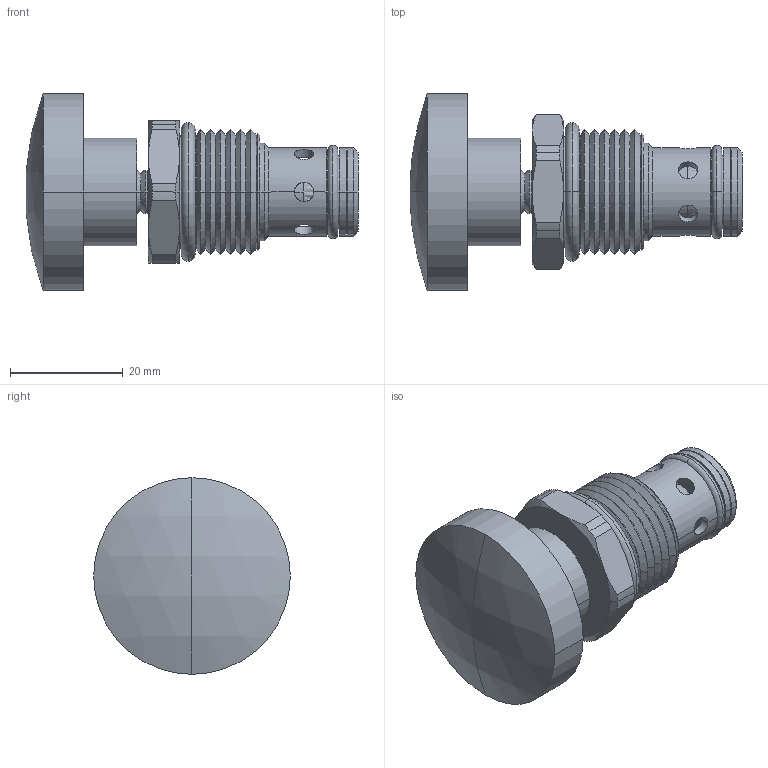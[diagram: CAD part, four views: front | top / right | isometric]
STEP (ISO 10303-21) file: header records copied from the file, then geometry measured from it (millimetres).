
FILE_DESCRIPTION((''),'2;1');
FILE_NAME('U:\Solid model CD\Solid model full\Mechanical\STEP\DEMCS0K-3D Full.stp','2008-07-28T16:10:51',('Dan'),(''),'Autodesk Inventor 9','Autodesk Inventor 9','');
FILE_SCHEMA(('AUTOMOTIVE_DESIGN { 1 0 10303 214 1 1 1 1 }'));
Length unit declared in the file: inch
Products named in the file (5): DEMCS0K-3D Full; DEMCS0K-3D Full1; DEMCS0K-3D Full2; DEMCS0K-3D Full3; DEMCS0K-3D Full4
Assembly tree (4 placements, depth 2):
  DEMCS0K-3D Full
    DEMCS0K-3D Full1
    DEMCS0K-3D Full2
    DEMCS0K-3D Full3
    DEMCS0K-3D Full4
Bounding box: 58.99 x 34.92 x 34.92 mm (x, y, z)
Volume: 22226.1 mm3; surface area: 8709.8 mm2
Topology: 4 solids, 4 shells, 155 faces, 380 edges, 230 vertices
Faces by surface type: cone 56, cylinder 54, plane 23, torus 8, bspline 8, sphere 6
Entity records: 5364 total; most frequent: CARTESIAN_POINT 1586, DIRECTION 826, ORIENTED_EDGE 748, EDGE_CURVE 374, AXIS2_PLACEMENT_3D 356, VERTEX_POINT 228, CIRCLE 200, EDGE_LOOP 178
